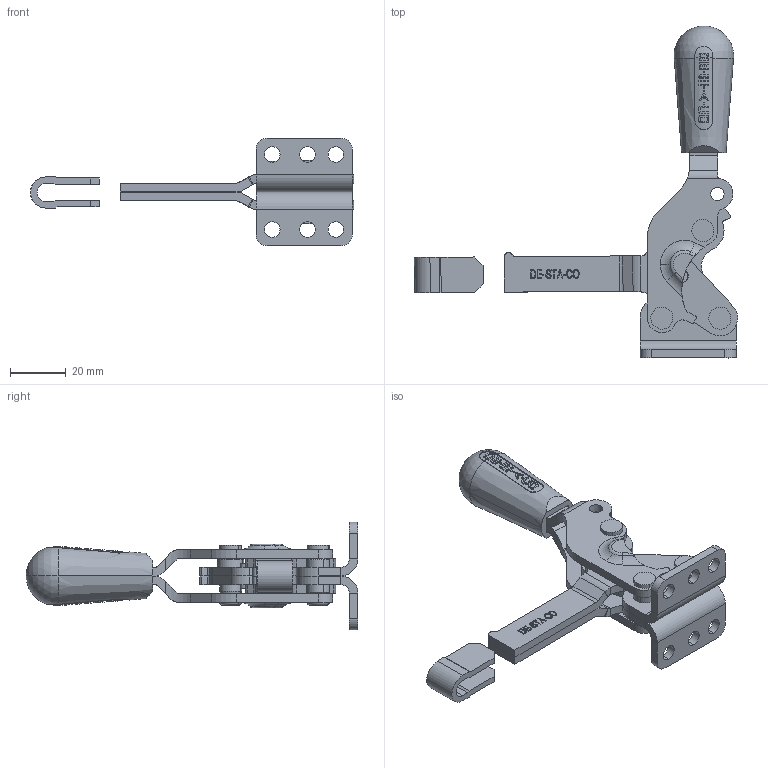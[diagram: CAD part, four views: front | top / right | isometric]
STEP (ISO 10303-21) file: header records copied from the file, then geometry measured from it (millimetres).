
FILE_DESCRIPTION((''),'2;1');
FILE_NAME('001_DESTACO_2002_ASM','2022-09-16T',('SYSTEM'),(''),'PRO/ENGINEER BY PARAMETRIC TECHNOLOGY CORPORATION, 2016360','PRO/ENGINEER BY PARAMETRIC TECHNOLOGY CORPORATION, 2016360','');
FILE_SCHEMA(('AUTOMOTIVE_DESIGN { 1 0 10303 214 1 1 1 1 }'));
Length unit declared in the file: inch
Products named in the file (20): U_2002101; U_KNURLED_BUSHINGS; U_ROLLED_RIVET_MODEL; U_ROLLED_RIVET_MODEL__1; U_2002100; 2002_U_BASE_ASM; UR_2002104; UR_ERGONOMIC_GRIP; UR_2002103_2002103; 2002_UR_LEVER_ASM; U_2002119; U_2002110; U_2002117; U_2002118; 2002_U_LINK_ASM; S_2002102_2002114; S_2002102_2002113; S_2002115-E; 2002_S_BAR_ASM; 001_DESTACO_2002_ASM
Assembly tree (20 placements, depth 3):
  001_DESTACO_2002_ASM
    2002_U_BASE_ASM
      U_2002101
      U_KNURLED_BUSHINGS
      U_ROLLED_RIVET_MODEL
      U_ROLLED_RIVET_MODEL__1
      U_2002100
    2002_UR_LEVER_ASM
      UR_2002104
      UR_ERGONOMIC_GRIP
      UR_2002103_2002103
    2002_U_LINK_ASM
      U_2002119
      U_ROLLED_RIVET_MODEL__1
      U_2002110
      U_2002117
      U_2002118
    2002_S_BAR_ASM
      S_2002102_2002114
      S_2002102_2002113
      S_2002115-E
Bounding box: 116.07 x 119.2 x 38.61 mm (x, y, z)
Volume: 39015.8 mm3; surface area: 31492 mm2
Topology: 16 solids, 16 shells, 996 faces, 2595 edges, 1700 vertices
Faces by surface type: plane 471, cylinder 273, bspline 154, cone 56, torus 34, sphere 8
Entity records: 45748 total; most frequent: CARTESIAN_POINT 12863, ORIENTED_EDGE 5118, DIRECTION 4415, PRESENTATION_STYLE_ASSIGNMENT 2648, STYLED_ITEM 2633, CURVE_STYLE 2559, EDGE_CURVE 2559, VERTEX_POINT 1683
